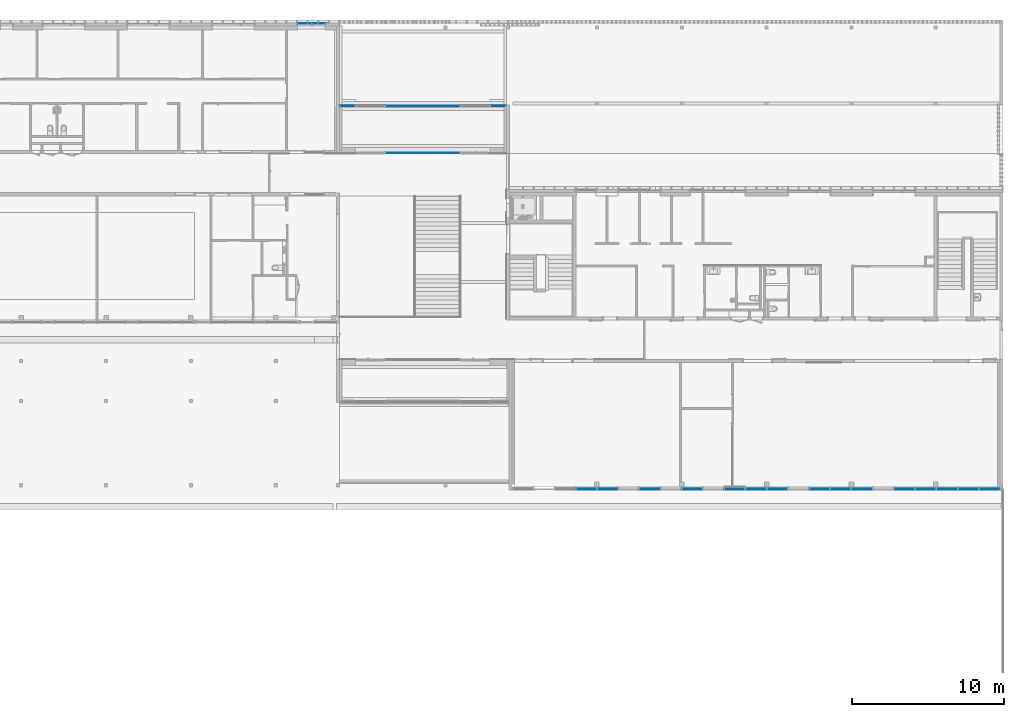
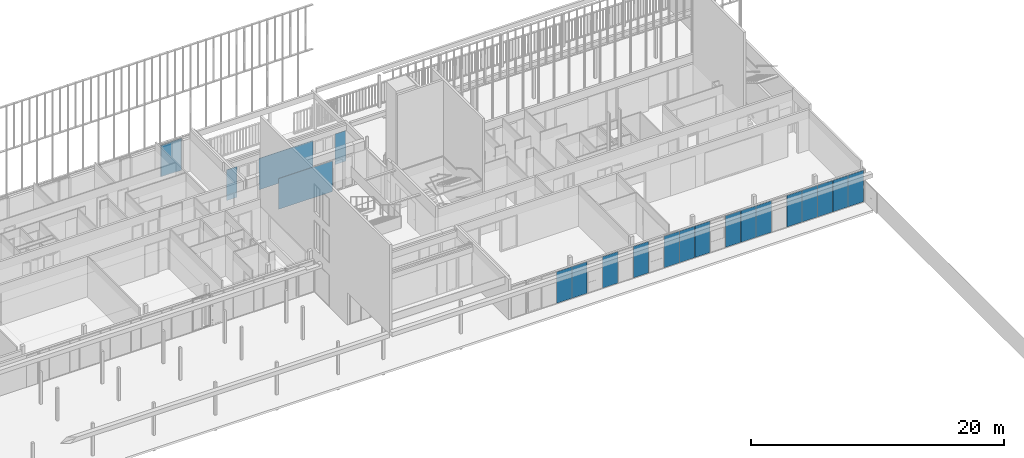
# One storey, part 72 of 240: 20 plates, 6 elements without a shape of their own.
"""IFC2X3 building model written with IfcOpenShell, lengths in centimetres."""

from ifc_helpers import new_model, entity, si_unit, converted_unit, derived_unit, direction, frame, origin, origin_2d_with_axis, place, context, subcontext, project, spatial, rectangle, extrude, source, transform, mapped, material, layer, layer_set, layer_usage, type_object, type_shapes, element, aggregate, save


model = new_model("IFC2X3")

# Units and contexts
model_context = context("Model", 3, precision=0.001, world=origin(), true_north=direction((6.12303176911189e-17, 1.0)))
body_context = subcontext(model_context, "Body", "Model", "MODEL_VIEW")
ifc_project = project(units=[si_unit("LENGTHUNIT", "METRE", prefix="CENTI"), si_unit("AREAUNIT", "SQUARE_METRE"), si_unit("VOLUMEUNIT", "CUBIC_METRE"), converted_unit("PLANEANGLEUNIT", "DEGREE", entity("IfcRatioMeasure", 0.0174532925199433), si_unit("PLANEANGLEUNIT", "RADIAN"), dimensions=[0, 0, 0, 0, 0, 0, 0]), si_unit("MASSUNIT", "GRAM", prefix="KILO"), derived_unit("MASSDENSITYUNIT", [(si_unit("MASSUNIT", "GRAM", prefix="KILO"), 1), (si_unit("LENGTHUNIT", "METRE"), -3)]), si_unit("TIMEUNIT", "SECOND"), si_unit("FREQUENCYUNIT", "HERTZ"), si_unit("THERMODYNAMICTEMPERATUREUNIT", "DEGREE_CELSIUS"), derived_unit("THERMALTRANSMITTANCEUNIT", [(si_unit("MASSUNIT", "GRAM", prefix="KILO"), 1), (si_unit("THERMODYNAMICTEMPERATUREUNIT", "KELVIN"), -1), (si_unit("TIMEUNIT", "SECOND"), -3)]), derived_unit("VOLUMETRICFLOWRATEUNIT", [(si_unit("LENGTHUNIT", "METRE"), 3), (si_unit("TIMEUNIT", "SECOND"), -1)]), si_unit("ELECTRICCURRENTUNIT", "AMPERE"), si_unit("ELECTRICVOLTAGEUNIT", "VOLT"), si_unit("POWERUNIT", "WATT"), si_unit("FORCEUNIT", "NEWTON", prefix="KILO"), si_unit("ILLUMINANCEUNIT", "LUX"), si_unit("LUMINOUSFLUXUNIT", "LUMEN"), si_unit("LUMINOUSINTENSITYUNIT", "CANDELA"), derived_unit("USERDEFINED", [(si_unit("MASSUNIT", "GRAM", prefix="KILO"), -1), (si_unit("LENGTHUNIT", "METRE"), -2), (si_unit("TIMEUNIT", "SECOND"), 3), (si_unit("LUMINOUSFLUXUNIT", "LUMEN"), 1)]), derived_unit("LINEARVELOCITYUNIT", [(si_unit("LENGTHUNIT", "METRE"), 1), (si_unit("TIMEUNIT", "SECOND"), -1)]), si_unit("PRESSUREUNIT", "PASCAL"), derived_unit("USERDEFINED", [(si_unit("LENGTHUNIT", "METRE"), -2), (si_unit("MASSUNIT", "GRAM", prefix="KILO"), 1), (si_unit("TIMEUNIT", "SECOND"), -2)])], contexts=[model_context])

# Site, building, storey
site_placement = place(None, frame((-2781.94577612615, 7442.24238424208, 0.0)))
site = spatial("IfcSite", under=ifc_project, at=site_placement, Name="Default", CompositionType="ELEMENT")
building_placement = place(site_placement, origin())
building = spatial("IfcBuilding", under=site, at=building_placement, CompositionType="ELEMENT")
storey_placement = place(building_placement, origin())
storey = spatial("IfcBuildingStorey", under=building, at=storey_placement, Name="N00 - COO", CompositionType="ELEMENT", Elevation=0.0)

# Curtain wall, plate
curtain_wall_type_1 = type_object("IfcCurtainWallType", Name="Mur-rideau:07 - mur rideau trame 280 cm", PredefinedType="NOTDEFINED")
curtain_wall_1_placement = place(building_placement, origin())
curtain_wall_1 = element("IfcCurtainWall", 1, at=curtain_wall_1_placement, inside=storey, type_object=curtain_wall_type_1, Name="Mur-rideau:07 - mur rideau trame 280 cm", ObjectType="Mur-rideau:07 - mur rideau trame 280 cm")
ifc_material = material(Name="Verre")
ifc_layer_1 = layer(ifc_material, 4.0)
ifc_layer_set_1 = layer_set([ifc_layer_1], Name="Panneau système:Vitré")
ifc_layer_usage_1 = layer_usage(ifc_layer_set_1, "AXIS3", "POSITIVE", 0.0)
plate_type_1 = type_object("IfcPlateType", Name="Vitré", PredefinedType="CURTAIN_PANEL", material=ifc_layer_set_1)
shared_shape_1 = source(origin(), body_context, "Body", "SweptSolid", [
    extrude(rectangle(XDim=4.0, YDim=186.512499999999, at=origin_2d_with_axis()), frame((-0.868749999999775, 0.0, 1.73749999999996), z_axis=(0.0, 0.0, 1.0), x_axis=(0.0, 1.0, 0.0)), (0.0, 0.0, 1.0), 304.7625),
    extrude(rectangle(XDim=91.7375000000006, YDim=4.0, at=origin_2d_with_axis()), frame((48.2562499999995, 0.0, 0.0)), (0.0, 0.0, 1.0), 307.7375),
])
type_shapes(plate_type_1, [shared_shape_1])
plate_1_placement = place(curtain_wall_1_placement, frame((-4954.50612760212, 26.2000000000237, 2.38125000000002)))
plate_1 = element("IfcPlate", 2, at=plate_1_placement, type_object=plate_type_1, material=ifc_layer_usage_1, Name="Panneau système:Vitré", ObjectType="Panneau système:Vitré", context=body_context, shape_type="MappedRepresentation", body=[
    mapped(shared_shape_1, transform((0.0, 0.0, 0.0), scale=1.0)),
])
aggregate(curtain_wall_1, [plate_1])

curtain_wall_type_2 = type_object("IfcCurtainWallType", Name="Mur-rideau:07 - mur rideau vitrage sans recoupement 10cm", PredefinedType="NOTDEFINED")
curtain_wall_2_placement = place(building_placement, origin())
curtain_wall_2 = element("IfcCurtainWall", 3, at=curtain_wall_2_placement, inside=storey, type_object=curtain_wall_type_2, Name="Mur-rideau:07 - mur rideau vitrage sans recoupement 10cm", ObjectType="Mur-rideau:07 - mur rideau vitrage sans recoupement 10cm")
ifc_layer_usage_2 = layer_usage(ifc_layer_set_1, "AXIS3", "POSITIVE", 0.0)
plate_type_2 = type_object("IfcPlateType", Name="Vitré", PredefinedType="CURTAIN_PANEL", material=ifc_layer_set_1)
shared_shape_2 = source(origin(), body_context, "Body", "SweptSolid", [
    extrude(rectangle(XDim=4.0, YDim=95.2429526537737, at=origin_2d_with_axis()), frame((0.0, 0.0, 0.0), z_axis=(0.0, 0.0, 1.0), x_axis=(0.0, 1.0, 0.0)), (0.0, 0.0, 1.0), 296.0),
])
type_shapes(plate_type_2, [shared_shape_2])
plate_2_placement = place(curtain_wall_2_placement, frame((-4715.37840127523, -517.548500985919, 5.0), z_axis=(0.0, 0.0, 1.0), x_axis=(-1.0, 0.0, 0.0)))
plate_2 = element("IfcPlate", 4, at=plate_2_placement, type_object=plate_type_2, material=ifc_layer_usage_2, Name="Panneau système:Vitré", ObjectType="Panneau système:Vitré", context=body_context, shape_type="MappedRepresentation", body=[
    mapped(shared_shape_2, transform((0.0, 0.0, 0.0), scale=1.0)),
])
aggregate(curtain_wall_2, [plate_2])

curtain_wall_3_placement = place(building_placement, origin())
curtain_wall_3 = element("IfcCurtainWall", 5, at=curtain_wall_3_placement, inside=storey, type_object=curtain_wall_type_2, Name="Mur-rideau:07 - mur rideau vitrage sans recoupement 10cm", ObjectType="Mur-rideau:07 - mur rideau vitrage sans recoupement 10cm")
ifc_layer_usage_3 = layer_usage(ifc_layer_set_1, "AXIS3", "POSITIVE", 0.0)
plate_type_3 = type_object("IfcPlateType", Name="Vitré", PredefinedType="CURTAIN_PANEL", material=ifc_layer_set_1)
shared_shape_3 = source(origin(), body_context, "Body", "SweptSolid", [
    extrude(rectangle(XDim=4.0, YDim=490.0, at=origin_2d_with_axis()), frame((0.0, 0.0, 0.0), z_axis=(0.0, 0.0, 1.0), x_axis=(0.0, 1.0, 0.0)), (0.0, 0.0, 1.0), 303.00000000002),
])
type_shapes(plate_type_3, [shared_shape_3])
plate_3_placement = place(curtain_wall_3_placement, frame((-4219.99987968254, -517.548500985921, 5.0)))
plate_3 = element("IfcPlate", 6, at=plate_3_placement, type_object=plate_type_3, material=ifc_layer_usage_3, Name="Panneau système:Vitré", ObjectType="Panneau système:Vitré", context=body_context, shape_type="MappedRepresentation", body=[
    mapped(shared_shape_3, transform((0.0, 0.0, 0.0), scale=1.0)),
])
aggregate(curtain_wall_3, [plate_3])

curtain_wall_4_placement = place(building_placement, origin())
curtain_wall_4 = element("IfcCurtainWall", 7, at=curtain_wall_4_placement, inside=storey, type_object=curtain_wall_type_2, Name="Mur-rideau:07 - mur rideau vitrage sans recoupement 10cm", ObjectType="Mur-rideau:07 - mur rideau vitrage sans recoupement 10cm")
ifc_layer_usage_4 = layer_usage(ifc_layer_set_1, "AXIS3", "POSITIVE", 0.0)
plate_type_4 = type_object("IfcPlateType", Name="Vitré", PredefinedType="CURTAIN_PANEL", material=ifc_layer_set_1)
shared_shape_4 = source(origin(), body_context, "Body", "SweptSolid", [
    extrude(rectangle(XDim=4.0, YDim=99.2429547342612, at=origin_2d_with_axis()), frame((0.0, 0.0, 0.0), z_axis=(0.0, 0.0, 1.0), x_axis=(0.0, 1.0, 0.0)), (0.0, 0.0, 1.0), 296.0),
])
type_shapes(plate_type_4, [shared_shape_4])
plate_4_placement = place(curtain_wall_4_placement, frame((-3722.6213570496, -517.548500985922, 5.0)))
plate_4 = element("IfcPlate", 8, at=plate_4_placement, type_object=plate_type_4, material=ifc_layer_usage_4, Name="Panneau système:Vitré", ObjectType="Panneau système:Vitré", context=body_context, shape_type="MappedRepresentation", body=[
    mapped(shared_shape_4, transform((0.0, 0.0, 0.0), scale=1.0)),
])
aggregate(curtain_wall_4, [plate_4])

curtain_wall_5_placement = place(building_placement, origin())
curtain_wall_5 = element("IfcCurtainWall", 9, at=curtain_wall_5_placement, inside=storey, type_object=curtain_wall_type_2, Name="Mur-rideau:07 - mur rideau vitrage sans recoupement 10cm", ObjectType="Mur-rideau:07 - mur rideau vitrage sans recoupement 10cm")
ifc_layer_usage_5 = layer_usage(ifc_layer_set_1, "AXIS3", "POSITIVE", 0.0)
plate_type_5 = type_object("IfcPlateType", Name="Vitré", PredefinedType="CURTAIN_PANEL", material=ifc_layer_set_1)
shared_shape_5 = source(origin(), body_context, "Body", "SweptSolid", [
    extrude(rectangle(XDim=4.0, YDim=490.0, at=origin_2d_with_axis()), frame((0.0, 0.0, 0.0), z_axis=(0.0, 0.0, 1.0), x_axis=(0.0, 1.0, 0.0)), (0.0, 0.0, 1.0), 296.0),
])
type_shapes(plate_type_5, [shared_shape_5])
plate_5_placement = place(curtain_wall_5_placement, frame((-4219.99987968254, -827.048500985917, 5.0), z_axis=(0.0, 0.0, 1.0), x_axis=(-1.0, 0.0, 0.0)))
plate_5 = element("IfcPlate", 10, at=plate_5_placement, type_object=plate_type_5, material=ifc_layer_usage_5, Name="Panneau système:Vitré", ObjectType="Panneau système:Vitré", context=body_context, shape_type="MappedRepresentation", body=[
    mapped(shared_shape_5, transform((0.0, 0.0, 0.0), scale=1.0)),
])
aggregate(curtain_wall_5, [plate_5])

# Curtain wall, plates
curtain_wall_type_3 = type_object("IfcCurtainWallType", Name="Mur-rideau:07 - mur rideau trame 140 cm", PredefinedType="NOTDEFINED")
curtain_wall_6_placement = place(building_placement, origin())
curtain_wall_6 = element("IfcCurtainWall", 11, at=curtain_wall_6_placement, inside=storey, type_object=curtain_wall_type_3, Name="Mur-rideau:07 - mur rideau trame 140 cm", ObjectType="Mur-rideau:07 - mur rideau trame 140 cm")
ifc_layer_usage_6 = layer_usage(ifc_layer_set_1, "AXIS3", "POSITIVE", 0.0)
plate_type_6 = type_object("IfcPlateType", Name="Vitré", PredefinedType="CURTAIN_PANEL", material=ifc_layer_set_1)
shared_shape_6 = source(origin(), body_context, "Body", "SweptSolid", [
    extrude(rectangle(XDim=4.0, YDim=138.2625, at=origin_2d_with_axis()), frame((0.0, 0.0, 0.0), z_axis=(0.0, 0.0, 1.0), x_axis=(0.0, 1.0, 0.0)), (0.0, 0.0, 1.0), 304.2625),
])
type_shapes(plate_type_6, [shared_shape_6])
plate_6_placement = place(curtain_wall_6_placement, frame((-3140.299882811, -3046.51349958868, 4.11874999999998)))
plate_6 = element("IfcPlate", 12, at=plate_6_placement, type_object=plate_type_6, material=ifc_layer_usage_6, Name="Panneau système:Vitré", ObjectType="Panneau système:Vitré", context=body_context, shape_type="MappedRepresentation", body=[
    mapped(shared_shape_6, transform((0.0, 0.0, 0.0), scale=1.0)),
])
ifc_layer_usage_7 = layer_usage(ifc_layer_set_1, "AXIS3", "POSITIVE", 0.0)
plate_7_placement = place(curtain_wall_6_placement, frame((-2720.299882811, -3046.51349958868, 4.11874999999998)))
plate_7 = element("IfcPlate", 13, at=plate_7_placement, type_object=plate_type_6, material=ifc_layer_usage_7, Name="Panneau système:Vitré", ObjectType="Panneau système:Vitré", context=body_context, shape_type="MappedRepresentation", body=[
    mapped(shared_shape_6, transform((0.0, 0.0, 0.0), scale=1.0)),
])
ifc_layer_usage_8 = layer_usage(ifc_layer_set_1, "AXIS3", "POSITIVE", 0.0)
plate_8_placement = place(curtain_wall_6_placement, frame((-2020.299882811, -3046.51349958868, 4.11874999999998)))
plate_8 = element("IfcPlate", 14, at=plate_8_placement, type_object=plate_type_6, material=ifc_layer_usage_8, Name="Panneau système:Vitré", ObjectType="Panneau système:Vitré", context=body_context, shape_type="MappedRepresentation", body=[
    mapped(shared_shape_6, transform((0.0, 0.0, 0.0), scale=1.0)),
])
ifc_layer_usage_9 = layer_usage(ifc_layer_set_1, "AXIS3", "POSITIVE", 0.0)
plate_9_placement = place(curtain_wall_6_placement, frame((-1880.299882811, -3046.51349958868, 4.11874999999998)))
plate_9 = element("IfcPlate", 15, at=plate_9_placement, type_object=plate_type_6, material=ifc_layer_usage_9, Name="Panneau système:Vitré", ObjectType="Panneau système:Vitré", context=body_context, shape_type="MappedRepresentation", body=[
    mapped(shared_shape_6, transform((0.0, 0.0, 0.0), scale=1.0)),
])
ifc_layer_usage_10 = layer_usage(ifc_layer_set_1, "AXIS3", "POSITIVE", 0.0)
plate_10_placement = place(curtain_wall_6_placement, frame((-1600.299882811, -3046.51349958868, 4.11874999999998)))
plate_10 = element("IfcPlate", 16, at=plate_10_placement, type_object=plate_type_6, material=ifc_layer_usage_10, Name="Panneau système:Vitré", ObjectType="Panneau système:Vitré", context=body_context, shape_type="MappedRepresentation", body=[
    mapped(shared_shape_6, transform((0.0, 0.0, 0.0), scale=1.0)),
])
ifc_layer_usage_11 = layer_usage(ifc_layer_set_1, "AXIS3", "POSITIVE", 0.0)
plate_11_placement = place(curtain_wall_6_placement, frame((-1460.299882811, -3046.51349958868, 4.11874999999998)))
plate_11 = element("IfcPlate", 17, at=plate_11_placement, type_object=plate_type_6, material=ifc_layer_usage_11, Name="Panneau système:Vitré", ObjectType="Panneau système:Vitré", context=body_context, shape_type="MappedRepresentation", body=[
    mapped(shared_shape_6, transform((0.0, 0.0, 0.0), scale=1.0)),
])
ifc_layer_usage_12 = layer_usage(ifc_layer_set_1, "AXIS3", "POSITIVE", 0.0)
plate_12_placement = place(curtain_wall_6_placement, frame((-1040.299882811, -3046.51349958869, 4.11874999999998)))
plate_12 = element("IfcPlate", 18, at=plate_12_placement, type_object=plate_type_6, material=ifc_layer_usage_12, Name="Panneau système:Vitré", ObjectType="Panneau système:Vitré", context=body_context, shape_type="MappedRepresentation", body=[
    mapped(shared_shape_6, transform((0.0, 0.0, 0.0), scale=1.0)),
])
ifc_layer_usage_13 = layer_usage(ifc_layer_set_1, "AXIS3", "POSITIVE", 0.0)
plate_13_placement = place(curtain_wall_6_placement, frame((-900.299882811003, -3046.51349958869, 4.11874999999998)))
plate_13 = element("IfcPlate", 19, at=plate_13_placement, type_object=plate_type_6, material=ifc_layer_usage_13, Name="Panneau système:Vitré", ObjectType="Panneau système:Vitré", context=body_context, shape_type="MappedRepresentation", body=[
    mapped(shared_shape_6, transform((0.0, 0.0, 0.0), scale=1.0)),
])
ifc_layer_usage_14 = layer_usage(ifc_layer_set_1, "AXIS3", "POSITIVE", 0.0)
plate_14_placement = place(curtain_wall_6_placement, frame((-760.299882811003, -3046.51349958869, 4.11874999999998)))
plate_14 = element("IfcPlate", 20, at=plate_14_placement, type_object=plate_type_6, material=ifc_layer_usage_14, Name="Panneau système:Vitré", ObjectType="Panneau système:Vitré", context=body_context, shape_type="MappedRepresentation", body=[
    mapped(shared_shape_6, transform((0.0, 0.0, 0.0), scale=1.0)),
])
ifc_layer_usage_15 = layer_usage(ifc_layer_set_1, "AXIS3", "POSITIVE", 0.0)
plate_15_placement = place(curtain_wall_6_placement, frame((-620.299882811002, -3046.51349958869, 4.11874999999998)))
plate_15 = element("IfcPlate", 21, at=plate_15_placement, type_object=plate_type_6, material=ifc_layer_usage_15, Name="Panneau système:Vitré", ObjectType="Panneau système:Vitré", context=body_context, shape_type="MappedRepresentation", body=[
    mapped(shared_shape_6, transform((0.0, 0.0, 0.0), scale=1.0)),
])
ifc_layer_2 = layer(ifc_material, 4.0)
ifc_layer_set_2 = layer_set([ifc_layer_2], Name="Panneau système:Plein (panneau Sandwich)")
ifc_layer_usage_16 = layer_usage(ifc_layer_set_2, "AXIS3", "POSITIVE", 0.0)
plate_type_7 = type_object("IfcPlateType", Name="Plein (panneau Sandwich)", PredefinedType="CURTAIN_PANEL", material=ifc_layer_set_2)
shared_shape_7 = source(origin(), body_context, "Body", "SweptSolid", [
    extrude(rectangle(XDim=4.0, YDim=138.2625, at=origin_2d_with_axis()), frame((0.0, 0.0, 0.0), z_axis=(0.0, 0.0, 1.0), x_axis=(0.0, 1.0, 0.0)), (0.0, 0.0, 1.0), 304.2625),
])
type_shapes(plate_type_7, [shared_shape_7])
plate_16_placement = place(curtain_wall_6_placement, frame((-3000.299882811, -3046.51349958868, 4.11874999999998)))
plate_16 = element("IfcPlate", 22, at=plate_16_placement, type_object=plate_type_7, material=ifc_layer_usage_16, Name="Panneau système:Plein (panneau Sandwich)", ObjectType="Panneau système:Plein (panneau Sandwich)", context=body_context, shape_type="MappedRepresentation", body=[
    mapped(shared_shape_7, transform((0.0, 0.0, 0.0), scale=1.0)),
])
ifc_layer_usage_17 = layer_usage(ifc_layer_set_2, "AXIS3", "POSITIVE", 0.0)
plate_17_placement = place(curtain_wall_6_placement, frame((-2160.299882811, -3046.51349958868, 4.11874999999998)))
plate_17 = element("IfcPlate", 23, at=plate_17_placement, type_object=plate_type_7, material=ifc_layer_usage_17, Name="Panneau système:Plein (panneau Sandwich)", ObjectType="Panneau système:Plein (panneau Sandwich)", context=body_context, shape_type="MappedRepresentation", body=[
    mapped(shared_shape_7, transform((0.0, 0.0, 0.0), scale=1.0)),
])
ifc_layer_usage_18 = layer_usage(ifc_layer_set_2, "AXIS3", "POSITIVE", 0.0)
plate_18_placement = place(curtain_wall_6_placement, frame((-1320.299882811, -3046.51349958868, 4.11874999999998)))
plate_18 = element("IfcPlate", 24, at=plate_18_placement, type_object=plate_type_7, material=ifc_layer_usage_18, Name="Panneau système:Plein (panneau Sandwich)", ObjectType="Panneau système:Plein (panneau Sandwich)", context=body_context, shape_type="MappedRepresentation", body=[
    mapped(shared_shape_7, transform((0.0, 0.0, 0.0), scale=1.0)),
])
ifc_layer_usage_19 = layer_usage(ifc_layer_set_1, "AXIS3", "POSITIVE", 0.0)
plate_type_8 = type_object("IfcPlateType", Name="Vitré", PredefinedType="CURTAIN_PANEL", material=ifc_layer_set_1)
shared_shape_8 = source(origin(), body_context, "Body", "SweptSolid", [
    extrude(rectangle(XDim=4.0, YDim=137.962494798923, at=origin_2d_with_axis()), frame((0.0, 0.0, 0.0), z_axis=(0.0, 0.0, 1.0), x_axis=(0.0, 1.0, 0.0)), (0.0, 0.0, 1.0), 304.2625),
])
type_shapes(plate_type_8, [shared_shape_8])
plate_19_placement = place(curtain_wall_6_placement, frame((-2440.14988021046, -3046.51349958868, 4.11874999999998)))
plate_19 = element("IfcPlate", 25, at=plate_19_placement, type_object=plate_type_8, material=ifc_layer_usage_19, Name="Panneau système:Vitré", ObjectType="Panneau système:Vitré", context=body_context, shape_type="MappedRepresentation", body=[
    mapped(shared_shape_8, transform((0.0, 0.0, 0.0), scale=1.0)),
])
ifc_layer_usage_20 = layer_usage(ifc_layer_set_2, "AXIS3", "POSITIVE", 0.0)
plate_type_9 = type_object("IfcPlateType", Name="Plein (panneau Sandwich)", PredefinedType="CURTAIN_PANEL", material=ifc_layer_set_2)
shared_shape_9 = source(origin(), body_context, "Body", "SweptSolid", [
    extrude(rectangle(XDim=4.0, YDim=139.13125, at=origin_2d_with_axis()), frame((0.0, 0.0, 0.0), z_axis=(0.0, 0.0, 1.0), x_axis=(0.0, 1.0, 0.0)), (0.0, 0.0, 1.0), 304.2625),
])
type_shapes(plate_type_9, [shared_shape_9])
plate_20_placement = place(curtain_wall_6_placement, frame((-479.865507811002, -3046.51349958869, 4.11874999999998)))
plate_20 = element("IfcPlate", 26, at=plate_20_placement, type_object=plate_type_9, material=ifc_layer_usage_20, Name="Panneau système:Plein (panneau Sandwich)", ObjectType="Panneau système:Plein (panneau Sandwich)", context=body_context, shape_type="MappedRepresentation", body=[
    mapped(shared_shape_9, transform((0.0, 0.0, 0.0), scale=1.0)),
])
aggregate(curtain_wall_6, [plate_6, plate_16, plate_7, plate_19, plate_17, plate_8, plate_9, plate_10, plate_11, plate_18, plate_12, plate_13, plate_14, plate_15, plate_20])

save(model, "model.ifc")
